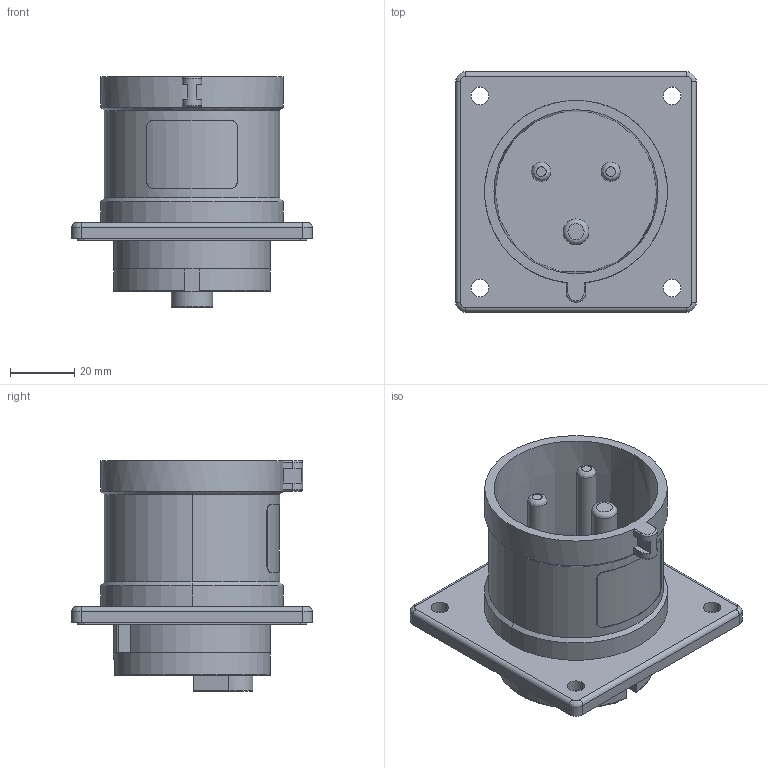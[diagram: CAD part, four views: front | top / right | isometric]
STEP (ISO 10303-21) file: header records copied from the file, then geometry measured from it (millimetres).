
FILE_DESCRIPTION(('FreeCAD Model'),'2;1');
FILE_NAME('Open CASCADE Shape Model','2026-02-04T11:16:58',(''),(''), 'Open CASCADE STEP processor 7.8','FreeCAD','Unknown');
FILE_SCHEMA(('AUTOMOTIVE_DESIGN { 1 0 10303 214 1 1 1 1 }'));
Length unit declared in the file: millimetre
Products named in the file (7): TL3L32432; Tomada; Pino Neutro; Pino Terra; Pino L1; Base interna; Terminais
Assembly tree (6 placements, depth 2):
  TL3L32432
    Tomada
    Pino Neutro
    Pino Terra
    Pino L1
    Base interna
    Terminais
Bounding box: 75 x 75 x 72 mm (x, y, z)
Volume: 56114.5 mm3; surface area: 50675.6 mm2
Topology: 6 solids, 6 shells, 293 faces, 731 edges, 469 vertices
Faces by surface type: plane 135, cylinder 119, torus 17, cone 12, bspline 6, sphere 4
Full cylindrical faces by diameter (mm): 6 x2, 8 x1
Entity records: 9362 total; most frequent: CARTESIAN_POINT 1971, DIRECTION 1577, ORIENTED_EDGE 1462, EDGE_CURVE 731, AXIS2_PLACEMENT_3D 582, VERTEX_POINT 469, LINE 413, VECTOR 413
